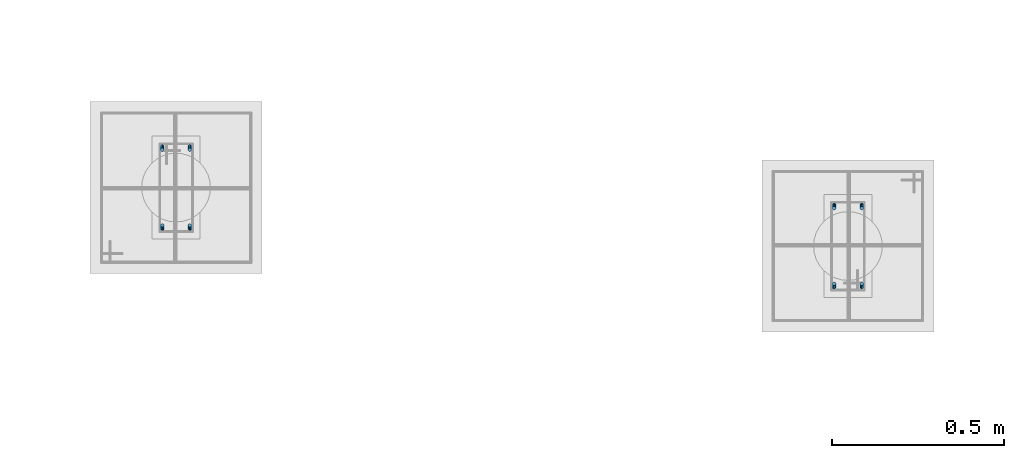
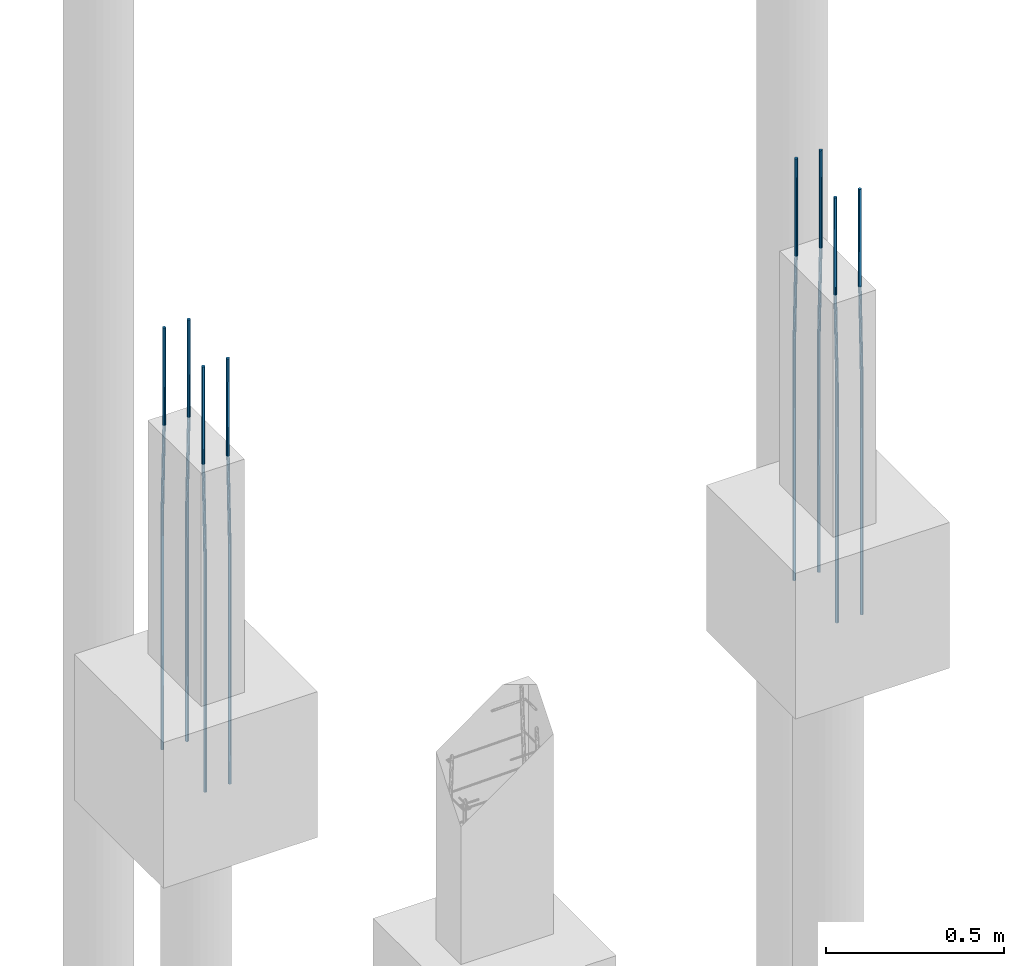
# One storey, part 22 of 119: 8 reinforcing bars.
"""IFC4 building model written with IfcOpenShell, lengths in centimetres."""

from ifc_helpers import new_model, entity, si_unit, derived_unit, frame, origin_with_axes, place, context, project, spatial, element, save


model = new_model("IFC4")

# Units and contexts
model_context = context("Model", 3, precision=1e-05, world=origin_with_axes(), identifier="Body")
ifc_project = project(units=[si_unit("LENGTHUNIT", "METRE", prefix="CENTI"), si_unit("VOLUMEUNIT", "CUBIC_METRE"), si_unit("AREAUNIT", "SQUARE_METRE"), si_unit("POWERUNIT", "WATT"), si_unit("LUMINOUSFLUXUNIT", "LUMEN"), si_unit("ELECTRICCURRENTUNIT", "AMPERE"), si_unit("PRESSUREUNIT", "PASCAL", prefix="KILO"), si_unit("MASSUNIT", "GRAM", prefix="KILO"), si_unit("PLANEANGLEUNIT", "RADIAN"), derived_unit("VOLUMETRICFLOWRATEUNIT", [(si_unit("LENGTHUNIT", "METRE"), 3), (si_unit("TIMEUNIT", "SECOND"), -1)])], contexts=[model_context])

# Site, building, storey
site_placement = place(None, frame((-4000.0, 0.0, 0.0), z_axis=(0.0, 0.0, 1.0), x_axis=(1.0, 0.0, 0.0)))
site = spatial("IfcSite", under=ifc_project, at=site_placement, Name="PADRÃO")
building_placement = place(site_placement, frame((0.0, 0.0, -14.0)))
building = spatial("IfcBuilding", under=site, at=building_placement, Name="CRECHE PRÉ-ESCOLA TIPO 2")
storey_placement = place(building_placement, origin_with_axes())
storey = spatial("IfcBuildingStorey", under=building, at=storey_placement, Name="FUNDAÇÃO", CompositionType="ELEMENT", Elevation=-14.0)

# Reinforcing bars
for number, where, z_axis, x_axis, name in (
    (1, (2939.24, 1395.01, 33.3573001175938), (0.0, 0.0, 1.0), (1.0, 0.0, 0.0), "P104 - Longitudinal"),
    (2, (2947.24, 1395.01, 33.3573001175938), (0.0, 0.0, 1.0), (1.0, 0.0, 0.0), "P104 - Longitudinal"),
):
    element("IfcReinforcingBar", number, at=place(storey_placement, frame(where, z_axis=z_axis, x_axis=x_axis)), inside=storey, Name=name, BarLength=0.0, CrossSectionArea=7.853981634e-05, NominalDiameter=1.0, PredefinedType="MAIN", context=model_context, shape_type="AdvancedSweptSolid", body=[
        entity("IfcSweptDiskSolid", entity("IfcCompositeCurve", [entity("IfcCompositeCurveSegment", "CONTINUOUS", True, entity("IfcPolyline", [entity("IfcCartesianPoint", [0.0, -0.5, -145.357300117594]), entity("IfcCartesianPoint", [0.0, -0.5, -63.3573001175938])])), entity("IfcCompositeCurveSegment", "CONTINUOUS", True, entity("IfcPolyline", [entity("IfcCartesianPoint", [0.0, -0.5, -63.3573001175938]), entity("IfcCartesianPoint", [0.0, 0.5, -33.3573001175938])])), entity("IfcCompositeCurveSegment", "CONTINUOUS", True, entity("IfcPolyline", [entity("IfcCartesianPoint", [0.0, 0.5, -33.3573001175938]), entity("IfcCartesianPoint", [0.0, 0.5, 0.0])]))], False), 0.5),
    ])
for number, where, z_axis, x_axis, name in (
    (3, (2939.24, 1418.01, 33.3573001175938), (0.0, 0.0, 1.0), (1.0, 0.0, 0.0), "P104 - Longitudinal"),
    (4, (2947.24, 1418.01, 33.3573001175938), (0.0, 0.0, 1.0), (1.0, 0.0, 0.0), "P104 - Longitudinal"),
):
    element("IfcReinforcingBar", number, at=place(storey_placement, frame(where, z_axis=z_axis, x_axis=x_axis)), inside=storey, Name=name, BarLength=0.0, CrossSectionArea=7.853981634e-05, NominalDiameter=1.0, PredefinedType="MAIN", context=model_context, shape_type="AdvancedSweptSolid", body=[
        entity("IfcSweptDiskSolid", entity("IfcCompositeCurve", [entity("IfcCompositeCurveSegment", "CONTINUOUS", True, entity("IfcPolyline", [entity("IfcCartesianPoint", [0.0, 0.5, -145.357300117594]), entity("IfcCartesianPoint", [0.0, 0.5, -63.3573001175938])])), entity("IfcCompositeCurveSegment", "CONTINUOUS", True, entity("IfcPolyline", [entity("IfcCartesianPoint", [0.0, 0.5, -63.3573001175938]), entity("IfcCartesianPoint", [0.0, -0.5, -33.3573001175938])])), entity("IfcCompositeCurveSegment", "CONTINUOUS", True, entity("IfcPolyline", [entity("IfcCartesianPoint", [0.0, -0.5, -33.3573001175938]), entity("IfcCartesianPoint", [0.0, -0.5, 0.0])]))], False), 0.5),
    ])
for number, where, z_axis, x_axis, name in (
    (5, (3142.5, 1378.02, 33.3573001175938), (0.0, 0.0, 1.0), (1.0, 0.0, 0.0), "P105 - Longitudinal"),
    (6, (3134.5, 1378.02, 33.3573001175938), (0.0, 0.0, 1.0), (1.0, 0.0, 0.0), "P105 - Longitudinal"),
):
    element("IfcReinforcingBar", number, at=place(storey_placement, frame(where, z_axis=z_axis, x_axis=x_axis)), inside=storey, Name=name, BarLength=0.0, CrossSectionArea=7.853981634e-05, NominalDiameter=1.0, PredefinedType="MAIN", context=model_context, shape_type="AdvancedSweptSolid", body=[
        entity("IfcSweptDiskSolid", entity("IfcCompositeCurve", [entity("IfcCompositeCurveSegment", "CONTINUOUS", True, entity("IfcPolyline", [entity("IfcCartesianPoint", [0.0, -0.5, -145.357300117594]), entity("IfcCartesianPoint", [0.0, -0.5, -63.3573001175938])])), entity("IfcCompositeCurveSegment", "CONTINUOUS", True, entity("IfcPolyline", [entity("IfcCartesianPoint", [0.0, -0.5, -63.3573001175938]), entity("IfcCartesianPoint", [0.0, 0.5, -33.3573001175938])])), entity("IfcCompositeCurveSegment", "CONTINUOUS", True, entity("IfcPolyline", [entity("IfcCartesianPoint", [0.0, 0.5, -33.3573001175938]), entity("IfcCartesianPoint", [0.0, 0.5, 0.0])]))], False), 0.5),
    ])
for number, where, z_axis, x_axis, name in (
    (7, (3134.5, 1401.02, 33.3573001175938), (0.0, 0.0, 1.0), (1.0, 0.0, 0.0), "P105 - Longitudinal"),
    (8, (3142.5, 1401.02, 33.3573001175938), (0.0, 0.0, 1.0), (1.0, 0.0, 0.0), "P105 - Longitudinal"),
):
    element("IfcReinforcingBar", number, at=place(storey_placement, frame(where, z_axis=z_axis, x_axis=x_axis)), inside=storey, Name=name, BarLength=0.0, CrossSectionArea=7.853981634e-05, NominalDiameter=1.0, PredefinedType="MAIN", context=model_context, shape_type="AdvancedSweptSolid", body=[
        entity("IfcSweptDiskSolid", entity("IfcCompositeCurve", [entity("IfcCompositeCurveSegment", "CONTINUOUS", True, entity("IfcPolyline", [entity("IfcCartesianPoint", [0.0, 0.5, -145.357300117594]), entity("IfcCartesianPoint", [0.0, 0.5, -63.3573001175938])])), entity("IfcCompositeCurveSegment", "CONTINUOUS", True, entity("IfcPolyline", [entity("IfcCartesianPoint", [0.0, 0.5, -63.3573001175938]), entity("IfcCartesianPoint", [0.0, -0.5, -33.3573001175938])])), entity("IfcCompositeCurveSegment", "CONTINUOUS", True, entity("IfcPolyline", [entity("IfcCartesianPoint", [0.0, -0.5, -33.3573001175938]), entity("IfcCartesianPoint", [0.0, -0.5, 0.0])]))], False), 0.5),
    ])

save(model, "model.ifc")
